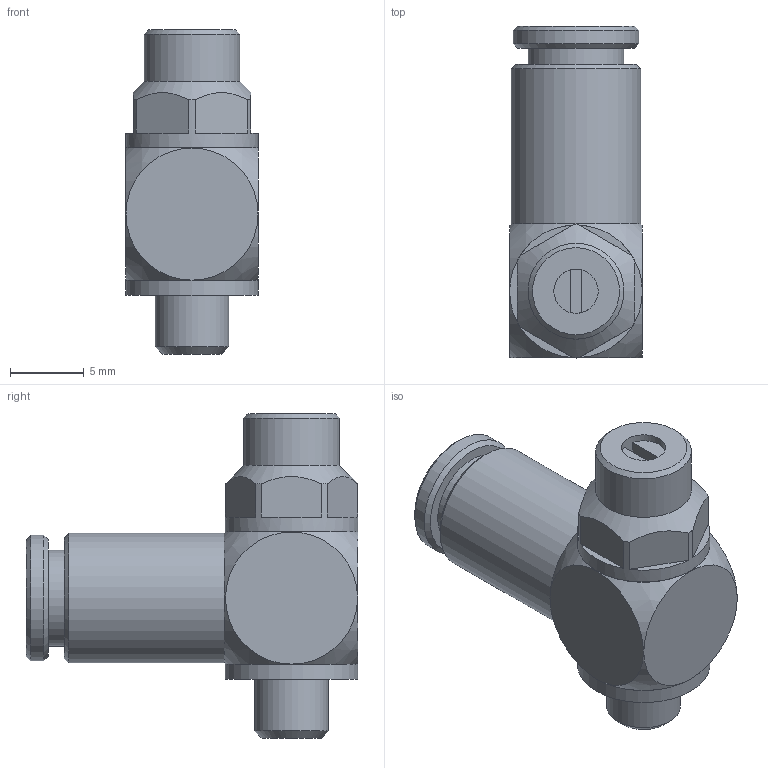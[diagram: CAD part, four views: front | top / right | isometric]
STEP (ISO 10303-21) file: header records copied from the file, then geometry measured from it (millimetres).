
FILE_DESCRIPTION(/* description */ ('MICROREG. DI FLUSSO #DIR. M5 T.4'),/* implementation_level */ '2;1');
FILE_NAME(/* name */ 'I:\Area Tecnica\Disegni\VARIE-3D\Componenti\600\6_01_###_###\6_01_45_##.stp',/* time_stamp */ '2017-01-04T08:25:24+01:00',/* author */ ('maniean1'),/* organization */ ('Pneumax S.p.A.'),/* preprocessor_version */ 'ST-DEVELOPER v15.2',/* originating_system */ 'Autodesk Inventor 2014',/* authorisation */ '');
FILE_SCHEMA (('AUTOMOTIVE_DESIGN { 1 0 10303 214 3 1 1 }'));
Length unit declared in the file: millimetre
Products named in the file (1): 6_01_45_##
Bounding box: 9 x 22.5 x 22 mm (x, y, z)
Volume: 1813.4 mm3; surface area: 1272.4 mm2
Topology: 1 solids, 1 shells, 46 faces, 97 edges, 63 vertices
Faces by surface type: plane 29, cylinder 9, cone 7, sphere 1
Full cylindrical faces by diameter (mm): 3 x1, 4 x1, 5 x1, 6.5 x2, 8.5 x1, 8.8 x1, 9 x2
Entity records: 1203 total; most frequent: DIRECTION 206, CARTESIAN_POINT 193, ORIENTED_EDGE 150, AXIS2_PLACEMENT_3D 90, EDGE_CURVE 75, EDGE_LOOP 74, VERTEX_POINT 59, STYLED_ITEM 47
